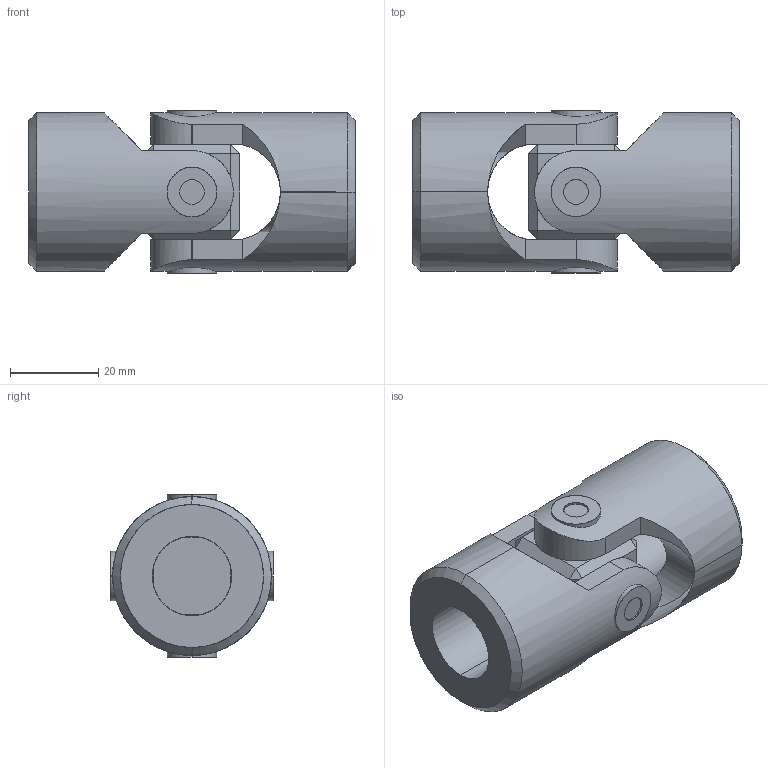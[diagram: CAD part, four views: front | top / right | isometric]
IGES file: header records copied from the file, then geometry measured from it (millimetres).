
Start section: SolidWorks IGES file using analytic representation for surfaces
Global section: file name: C:\Users\IanO\Desktop\R3690_v2\R3690_v2_20231020_IGES\R3690.018-RB.igs; native system: SolidWorks 2019; preprocessor: SolidWorks 2019; author: IanO; date: 231020.152241; units: millimetre
Bounding box: 74 x 36.72 x 36.72 mm (x, y, z)
Surface area: 20152.7 mm2 (no closed solid volume)
Topology: 0 solids, 0 shells, 104 faces, 2280 edges, 2280 vertices
Faces by surface type: bspline 56, revolution 48
